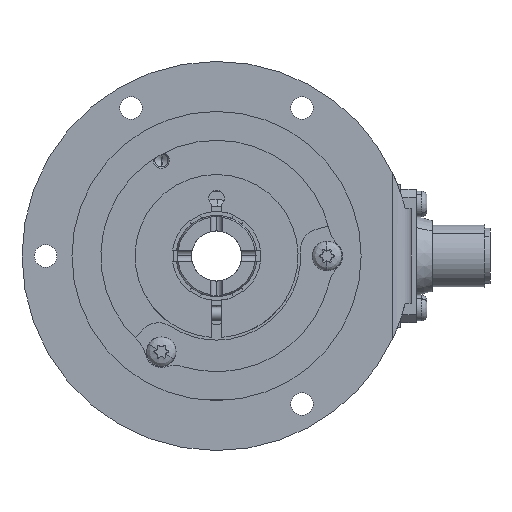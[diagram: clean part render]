
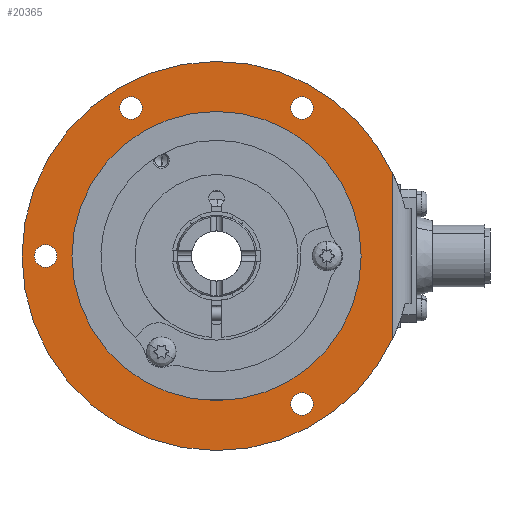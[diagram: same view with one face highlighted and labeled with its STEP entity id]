
A CAD part, left-side view. The second image highlights one B-rep face of the part: STEP entity #20365.
In plain terms, the highlighted planar face has unit normal (-1, 0, 0).
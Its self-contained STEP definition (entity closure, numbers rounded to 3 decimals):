
#72 = AXIS2_PLACEMENT_3D ( 'NONE', #12405, #868, #8319 ) ;
#314 = DIRECTION ( 'NONE',  ( 0., 0., -1. ) ) ;
#868 = DIRECTION ( 'NONE',  ( -1., 0., 0. ) ) ;
#1068 = VERTEX_POINT ( 'NONE', #3249 ) ;
#1185 = CIRCLE ( 'NONE', #1205, 2.15 ) ;
#1205 = AXIS2_PLACEMENT_3D ( 'NONE', #4442, #16937, #12251 ) ;
#1629 = CARTESIAN_POINT ( 'NONE',  ( -19.622, 9.173, -30.296 ) ) ;
#1705 = LINE ( 'NONE', #5306, #19573 ) ;
#1845 = CARTESIAN_POINT ( 'NONE',  ( -19.622, 57.923, 2.15 ) ) ;
#1848 = DIRECTION ( 'NONE',  ( 0., 0., -1. ) ) ;
#2012 = DIRECTION ( 'NONE',  ( 0., 0., -1. ) ) ;
#2091 = CARTESIAN_POINT ( 'NONE',  ( -19.622, 25.423, 0. ) ) ;
#2125 = ORIENTED_EDGE ( 'NONE', *, *, #14057, .F. ) ;
#2276 = CARTESIAN_POINT ( 'NONE',  ( -19.622, -8.077, -15.708 ) ) ;
#2277 = PLANE ( 'NONE',  #72 ) ;
#2285 = CARTESIAN_POINT ( 'NONE',  ( -19.622, -8.077, 15.708 ) ) ;
#2296 = DIRECTION ( 'NONE',  ( 0., 0., -1. ) ) ;
#2535 = FACE_OUTER_BOUND ( 'NONE', #19346, .T. ) ;
#2571 = AXIS2_PLACEMENT_3D ( 'NONE', #22999, #9039, #7368 ) ;
#2928 = EDGE_CURVE ( 'NONE', #24617, #19160, #4792, .T. ) ;
#3249 = CARTESIAN_POINT ( 'NONE',  ( -19.622, 41.673, 30.296 ) ) ;
#3381 = CARTESIAN_POINT ( 'NONE',  ( -19.622, 9.173, -28.146 ) ) ;
#3484 = DIRECTION ( 'NONE',  ( 0., 0., -1. ) ) ;
#3638 = CARTESIAN_POINT ( 'NONE',  ( -19.622, 25.423, 27.5 ) ) ;
#3692 = DIRECTION ( 'NONE',  ( -1., 0., 0. ) ) ;
#3894 = EDGE_CURVE ( 'NONE', #22874, #23853, #6451, .T. ) ;
#3919 = DIRECTION ( 'NONE',  ( -1., 0., 0. ) ) ;
#4173 = VERTEX_POINT ( 'NONE', #3638 ) ;
#4277 = CIRCLE ( 'NONE', #18570, 2.15 ) ;
#4282 = DIRECTION ( 'NONE',  ( -1., 0., 0. ) ) ;
#4374 = VERTEX_POINT ( 'NONE', #9792 ) ;
#4381 = AXIS2_PLACEMENT_3D ( 'NONE', #25127, #7585, #13454 ) ;
#4442 = CARTESIAN_POINT ( 'NONE',  ( -19.622, 41.673, 28.146 ) ) ;
#4667 = FACE_BOUND ( 'NONE', #7192, .T. ) ;
#4792 = CIRCLE ( 'NONE', #4381, 2.15 ) ;
#4862 = AXIS2_PLACEMENT_3D ( 'NONE', #4900, #14991, #3484 ) ;
#4900 = CARTESIAN_POINT ( 'NONE',  ( -19.622, 25.423, 0. ) ) ;
#4987 = AXIS2_PLACEMENT_3D ( 'NONE', #2091, #11954, #15765 ) ;
#5306 = CARTESIAN_POINT ( 'NONE',  ( -19.622, -8.077, 9. ) ) ;
#5330 = VERTEX_POINT ( 'NONE', #1629 ) ;
#5734 = CIRCLE ( 'NONE', #23339, 2.15 ) ;
#5807 = CIRCLE ( 'NONE', #9099, 27.5 ) ;
#6053 = CIRCLE ( 'NONE', #11379, 2.15 ) ;
#6131 = FACE_BOUND ( 'NONE', #22695, .T. ) ;
#6443 = VERTEX_POINT ( 'NONE', #1845 ) ;
#6451 = CIRCLE ( 'NONE', #20767, 37. ) ;
#6555 = EDGE_CURVE ( 'NONE', #22484, #4173, #9769, .T. ) ;
#6829 = DIRECTION ( 'NONE',  ( 0., 0., -1. ) ) ;
#6995 = EDGE_CURVE ( 'NONE', #23853, #20242, #13853, .T. ) ;
#7098 = EDGE_CURVE ( 'NONE', #24037, #1068, #1185, .T. ) ;
#7099 = CIRCLE ( 'NONE', #2571, 2.15 ) ;
#7192 = EDGE_LOOP ( 'NONE', ( #10089, #8439 ) ) ;
#7215 = EDGE_CURVE ( 'NONE', #24183, #22874, #1705, .T. ) ;
#7368 = DIRECTION ( 'NONE',  ( 0., 0., -1. ) ) ;
#7562 = CARTESIAN_POINT ( 'NONE',  ( -19.622, 57.923, -2.15 ) ) ;
#7585 = DIRECTION ( 'NONE',  ( -1., 0., 0. ) ) ;
#7831 = EDGE_CURVE ( 'NONE', #5330, #4374, #5734, .T. ) ;
#8319 = DIRECTION ( 'NONE',  ( 0., 0., -1. ) ) ;
#8391 = CARTESIAN_POINT ( 'NONE',  ( -19.622, 57.923, 0. ) ) ;
#8439 = ORIENTED_EDGE ( 'NONE', *, *, #20264, .F. ) ;
#9030 = ORIENTED_EDGE ( 'NONE', *, *, #10176, .F. ) ;
#9039 = DIRECTION ( 'NONE',  ( -1., 0., 0. ) ) ;
#9099 = AXIS2_PLACEMENT_3D ( 'NONE', #16526, #19867, #6829 ) ;
#9511 = AXIS2_PLACEMENT_3D ( 'NONE', #15527, #23248, #1848 ) ;
#9769 = CIRCLE ( 'NONE', #4862, 27.5 ) ;
#9792 = CARTESIAN_POINT ( 'NONE',  ( -19.622, 9.173, -25.996 ) ) ;
#10019 = CARTESIAN_POINT ( 'NONE',  ( -19.622, 25.423, -27.5 ) ) ;
#10036 = EDGE_CURVE ( 'NONE', #20242, #24183, #20934, .T. ) ;
#10089 = ORIENTED_EDGE ( 'NONE', *, *, #16412, .F. ) ;
#10123 = CARTESIAN_POINT ( 'NONE',  ( -19.622, 25.423, 0. ) ) ;
#10176 = EDGE_CURVE ( 'NONE', #4173, #22484, #5807, .T. ) ;
#10197 = ORIENTED_EDGE ( 'NONE', *, *, #7098, .F. ) ;
#10611 = FACE_BOUND ( 'NONE', #12065, .T. ) ;
#10709 = AXIS2_PLACEMENT_3D ( 'NONE', #8391, #4282, #19283 ) ;
#11370 = CARTESIAN_POINT ( 'NONE',  ( -19.622, 25.423, -37. ) ) ;
#11379 = AXIS2_PLACEMENT_3D ( 'NONE', #23898, #3919, #314 ) ;
#11954 = DIRECTION ( 'NONE',  ( -1., 0., 0. ) ) ;
#12019 = FACE_BOUND ( 'NONE', #16202, .T. ) ;
#12038 = DIRECTION ( 'NONE',  ( -1., 0., 0. ) ) ;
#12065 = EDGE_LOOP ( 'NONE', ( #24538, #10197 ) ) ;
#12251 = DIRECTION ( 'NONE',  ( 0., 0., -1. ) ) ;
#12405 = CARTESIAN_POINT ( 'NONE',  ( -19.622, 25.423, 0. ) ) ;
#13294 = EDGE_CURVE ( 'NONE', #19160, #24617, #7099, .T. ) ;
#13454 = DIRECTION ( 'NONE',  ( 0., 0., -1. ) ) ;
#13853 = CIRCLE ( 'NONE', #22044, 37. ) ;
#14057 = EDGE_CURVE ( 'NONE', #4374, #5330, #4277, .T. ) ;
#14143 = ORIENTED_EDGE ( 'NONE', *, *, #7831, .F. ) ;
#14192 = DIRECTION ( 'NONE',  ( 0., 0., -1. ) ) ;
#14530 = CARTESIAN_POINT ( 'NONE',  ( -19.622, 9.173, 30.296 ) ) ;
#14787 = ORIENTED_EDGE ( 'NONE', *, *, #2928, .F. ) ;
#14991 = DIRECTION ( 'NONE',  ( -1., 0., 0. ) ) ;
#15527 = CARTESIAN_POINT ( 'NONE',  ( -19.622, 41.673, 28.146 ) ) ;
#15765 = DIRECTION ( 'NONE',  ( 0., 0., -1. ) ) ;
#16202 = EDGE_LOOP ( 'NONE', ( #2125, #14143 ) ) ;
#16412 = EDGE_CURVE ( 'NONE', #6443, #17383, #6053, .T. ) ;
#16526 = CARTESIAN_POINT ( 'NONE',  ( -19.622, 25.423, 0. ) ) ;
#16937 = DIRECTION ( 'NONE',  ( -1., 0., 0. ) ) ;
#17052 = DIRECTION ( 'NONE',  ( -1., 0., 0. ) ) ;
#17054 = EDGE_LOOP ( 'NONE', ( #20498, #14787 ) ) ;
#17383 = VERTEX_POINT ( 'NONE', #7562 ) ;
#17446 = ORIENTED_EDGE ( 'NONE', *, *, #10036, .T. ) ;
#18370 = ORIENTED_EDGE ( 'NONE', *, *, #6995, .T. ) ;
#18570 = AXIS2_PLACEMENT_3D ( 'NONE', #3381, #17052, #24902 ) ;
#18661 = CARTESIAN_POINT ( 'NONE',  ( -19.622, 9.173, -28.146 ) ) ;
#18722 = ORIENTED_EDGE ( 'NONE', *, *, #7215, .T. ) ;
#18934 = ORIENTED_EDGE ( 'NONE', *, *, #3894, .T. ) ;
#19160 = VERTEX_POINT ( 'NONE', #14530 ) ;
#19283 = DIRECTION ( 'NONE',  ( 0., 0., -1. ) ) ;
#19346 = EDGE_LOOP ( 'NONE', ( #18934, #18370, #17446, #18722 ) ) ;
#19573 = VECTOR ( 'NONE', #23115, 1000. ) ;
#19780 = CARTESIAN_POINT ( 'NONE',  ( -19.622, 9.173, 25.996 ) ) ;
#19867 = DIRECTION ( 'NONE',  ( -1., 0., 0. ) ) ;
#20158 = ORIENTED_EDGE ( 'NONE', *, *, #6555, .F. ) ;
#20242 = VERTEX_POINT ( 'NONE', #11370 ) ;
#20264 = EDGE_CURVE ( 'NONE', #17383, #6443, #21733, .T. ) ;
#20365 = ADVANCED_FACE ( 'NONE', ( #4667, #12019, #2535, #6131, #22006, #10611 ), #2277, .T. ) ;
#20487 = CARTESIAN_POINT ( 'NONE',  ( -19.622, 41.673, 25.996 ) ) ;
#20498 = ORIENTED_EDGE ( 'NONE', *, *, #13294, .F. ) ;
#20767 = AXIS2_PLACEMENT_3D ( 'NONE', #10123, #12038, #2296 ) ;
#20934 = CIRCLE ( 'NONE', #4987, 37. ) ;
#21020 = EDGE_CURVE ( 'NONE', #1068, #24037, #23008, .T. ) ;
#21227 = CARTESIAN_POINT ( 'NONE',  ( -19.622, 25.423, 0. ) ) ;
#21733 = CIRCLE ( 'NONE', #10709, 2.15 ) ;
#22006 = FACE_BOUND ( 'NONE', #17054, .T. ) ;
#22039 = CARTESIAN_POINT ( 'NONE',  ( -19.622, 25.423, 37. ) ) ;
#22044 = AXIS2_PLACEMENT_3D ( 'NONE', #21227, #3692, #2012 ) ;
#22484 = VERTEX_POINT ( 'NONE', #10019 ) ;
#22695 = EDGE_LOOP ( 'NONE', ( #9030, #20158 ) ) ;
#22874 = VERTEX_POINT ( 'NONE', #2285 ) ;
#22999 = CARTESIAN_POINT ( 'NONE',  ( -19.622, 9.173, 28.146 ) ) ;
#23008 = CIRCLE ( 'NONE', #9511, 2.15 ) ;
#23115 = DIRECTION ( 'NONE',  ( 0., 0., 1. ) ) ;
#23248 = DIRECTION ( 'NONE',  ( -1., 0., 0. ) ) ;
#23339 = AXIS2_PLACEMENT_3D ( 'NONE', #18661, #24594, #14192 ) ;
#23853 = VERTEX_POINT ( 'NONE', #22039 ) ;
#23898 = CARTESIAN_POINT ( 'NONE',  ( -19.622, 57.923, 0. ) ) ;
#24037 = VERTEX_POINT ( 'NONE', #20487 ) ;
#24183 = VERTEX_POINT ( 'NONE', #2276 ) ;
#24538 = ORIENTED_EDGE ( 'NONE', *, *, #21020, .F. ) ;
#24594 = DIRECTION ( 'NONE',  ( -1., 0., 0. ) ) ;
#24617 = VERTEX_POINT ( 'NONE', #19780 ) ;
#24902 = DIRECTION ( 'NONE',  ( 0., 0., -1. ) ) ;
#25127 = CARTESIAN_POINT ( 'NONE',  ( -19.622, 9.173, 28.146 ) ) ;
